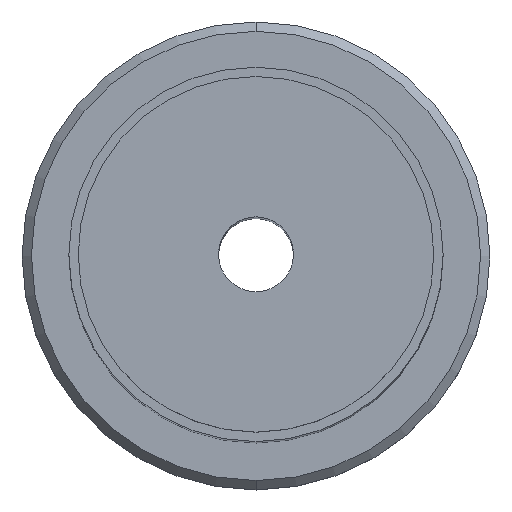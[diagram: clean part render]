
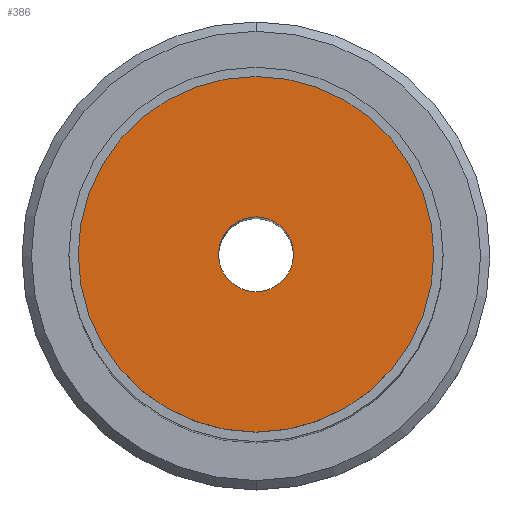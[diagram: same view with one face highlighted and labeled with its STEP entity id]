
A CAD part, top view. The second image highlights one B-rep face of the part: STEP entity #386.
In plain terms, the highlighted planar face has unit normal (0, 0, 1).
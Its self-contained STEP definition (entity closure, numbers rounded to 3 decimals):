
#182=EDGE_CURVE('',#318,#378,#502,.T.);
#304=VERTEX_POINT('',#639);
#306=VERTEX_POINT('',#641);
#318=VERTEX_POINT('',#653);
#346=EDGE_CURVE('',#306,#304,#683,.T.);
#378=VERTEX_POINT('',#719);
#382=EDGE_CURVE('',#378,#318,#723,.T.);
#386=ADVANCED_FACE('',(#727,#728),#729,.T.);
#468=EDGE_CURVE('',#304,#306,#823,.T.);
#502=CIRCLE('',#852,9.5);
#639=CARTESIAN_POINT('',(0.,-2.0,0.0));
#641=CARTESIAN_POINT('',(0.0,2.0,0.0));
#653=CARTESIAN_POINT('',(0.,-9.5,0.0));
#683=CIRCLE('',#1169,2.0);
#719=CARTESIAN_POINT('',(0.0,9.5,0.0));
#723=CIRCLE('',#1247,9.5);
#727=FACE_OUTER_BOUND('',#1253,.T.);
#728=FACE_BOUND('',#1254,.T.);
#729=PLANE('',#1255);
#823=CIRCLE('',#1378,2.0);
#852=AXIS2_PLACEMENT_3D('',#1393,#1394,#1395);
#1169=AXIS2_PLACEMENT_3D('',#1588,#1589,#1590);
#1247=AXIS2_PLACEMENT_3D('',#1632,#1633,#1634);
#1253=EDGE_LOOP('',(#1637,#1638));
#1254=EDGE_LOOP('',(#1639,#1640));
#1255=AXIS2_PLACEMENT_3D('',#1641,#1642,#1643);
#1378=AXIS2_PLACEMENT_3D('',#1781,#1782,#1783);
#1393=CARTESIAN_POINT('',(0.0,0.0,0.0));
#1394=DIRECTION('',(0.0,0.0,-1.0));
#1395=DIRECTION('',(0.0,1.0,0.0));
#1588=CARTESIAN_POINT('',(0.0,0.0,0.0));
#1589=DIRECTION('',(0.0,0.0,-1.0));
#1590=DIRECTION('',(0.0,1.0,0.0));
#1632=CARTESIAN_POINT('',(0.0,0.0,0.0));
#1633=DIRECTION('',(0.0,0.0,-1.0));
#1634=DIRECTION('',(0.0,1.0,0.0));
#1637=ORIENTED_EDGE('',*,*,#382,.F.);
#1638=ORIENTED_EDGE('',*,*,#182,.F.);
#1639=ORIENTED_EDGE('',*,*,#346,.T.);
#1640=ORIENTED_EDGE('',*,*,#468,.T.);
#1641=CARTESIAN_POINT('',(0.0,5.75,0.0));
#1642=DIRECTION('',(-0.0,0.0,1.0));
#1643=DIRECTION('',(0.0,-1.0,0.0));
#1781=CARTESIAN_POINT('',(0.0,0.0,0.0));
#1782=DIRECTION('',(0.0,0.0,-1.0));
#1783=DIRECTION('',(0.0,1.0,0.0));
